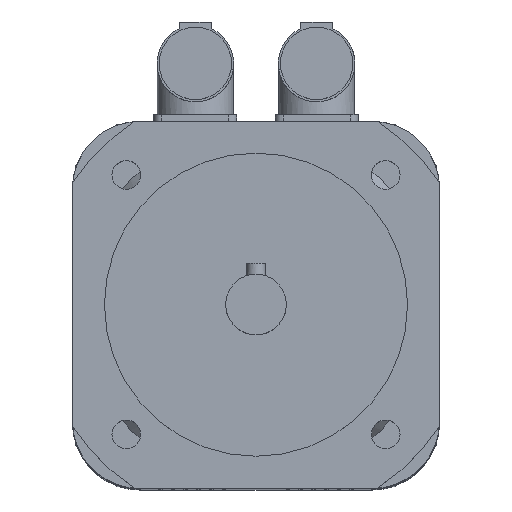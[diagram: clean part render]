
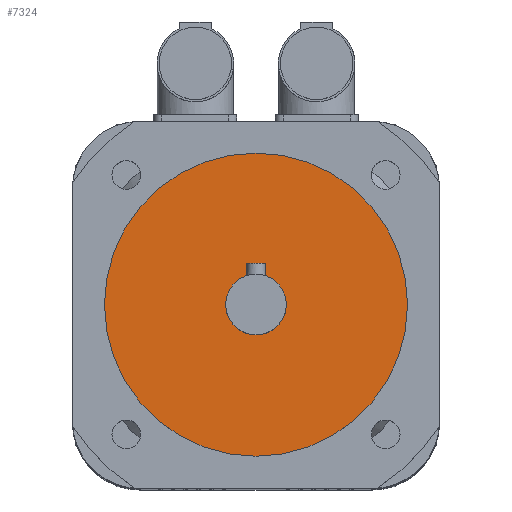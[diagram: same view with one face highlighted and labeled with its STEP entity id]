
A CAD part, top view. The second image highlights one B-rep face of the part: STEP entity #7324.
In plain terms, the highlighted planar face has unit normal (0, 0, 1).
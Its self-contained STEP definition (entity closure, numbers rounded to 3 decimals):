
#60=FACE_BOUND('',#993,.T.);
#151=CIRCLE('',#7810,9.5);
#152=CIRCLE('',#7812,47.5);
#524=FACE_OUTER_BOUND('',#992,.T.);
#992=EDGE_LOOP('',(#5019));
#993=EDGE_LOOP('',(#5020));
#3155=VERTEX_POINT('',#11148);
#3156=VERTEX_POINT('',#11151);
#3882=EDGE_CURVE('',#3155,#3155,#151,.T.);
#3883=EDGE_CURVE('',#3156,#3156,#152,.T.);
#5019=ORIENTED_EDGE('',*,*,#3883,.F.);
#5020=ORIENTED_EDGE('',*,*,#3882,.T.);
#6956=PLANE('',#7811);
#7324=ADVANCED_FACE('',(#524,#60),#6956,.T.);
#7810=AXIS2_PLACEMENT_3D('',#11149,#8756,#8757);
#7811=AXIS2_PLACEMENT_3D('',#11150,#8758,#8759);
#7812=AXIS2_PLACEMENT_3D('',#11152,#8760,#8761);
#8756=DIRECTION('center_axis',(0.,0.,-1.));
#8757=DIRECTION('ref_axis',(1.,0.,0.));
#8758=DIRECTION('center_axis',(0.,0.,1.));
#8759=DIRECTION('ref_axis',(1.,0.,0.));
#8760=DIRECTION('center_axis',(0.,0.,-1.));
#8761=DIRECTION('ref_axis',(1.,0.,0.));
#11148=CARTESIAN_POINT('',(0.,9.5,258.));
#11149=CARTESIAN_POINT('Origin',(0.,0.,258.));
#11150=CARTESIAN_POINT('Origin',(0.,47.5,258.));
#11151=CARTESIAN_POINT('',(0.,47.5,258.));
#11152=CARTESIAN_POINT('Origin',(0.,0.,258.));
